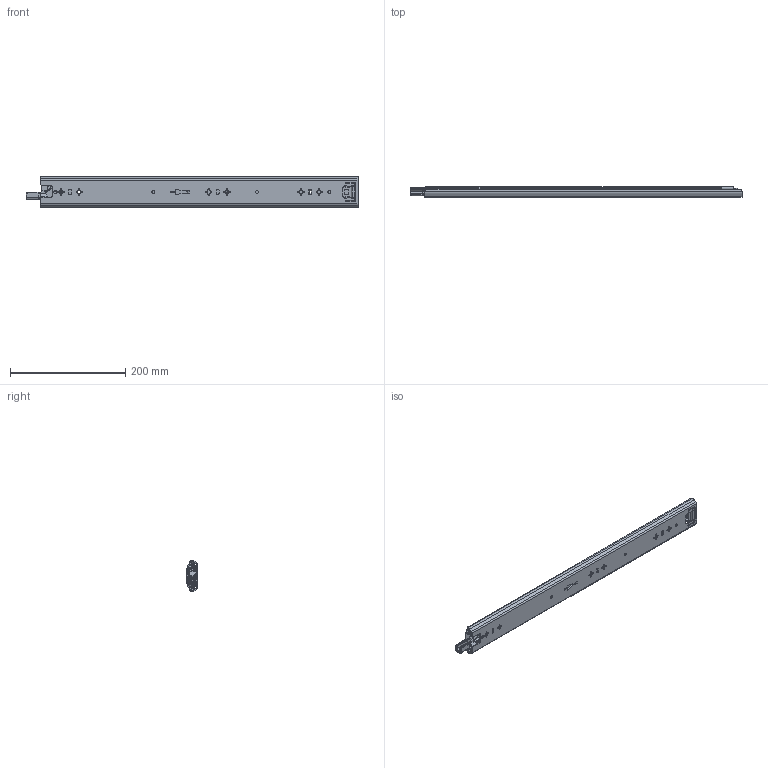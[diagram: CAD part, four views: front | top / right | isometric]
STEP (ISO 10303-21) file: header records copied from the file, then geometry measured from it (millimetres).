
FILE_DESCRIPTION((''),'2;1');
FILE_NAME('1053-3S-22ZUZHUANGTU_ASM','2023-04-11T',('jishu015'),(''),'PRO/ENGINEER BY PARAMETRIC TECHNOLOGY CORPORATION, 2010280','PRO/ENGINEER BY PARAMETRIC TECHNOLOGY CORPORATION, 2010280','');
FILE_SCHEMA(('CONFIG_CONTROL_DESIGN'));
Products named in the file (20): 1053-02-18WAIKE12; 1053WEIJIAO12; 1053-3S-24WAIKE12_ASM; 1053ZHUTIAO-17521; 53-5-6GANZHU21; 1053ZHUTIAO-175MM21_ASM; 1053-02-18ZHONGGUI21; ZHONGGUIPEIJIAN21; ZHONGGUISUOKOU21; 1053-02-18ZHONGGUI21_ASM; 1053XIAOZHUJIA-14GE21; 1053XIAOZHUJIA-14GE21_ASM; 1053-02-18NEIGUI21; DAOPIAN21; PIAN21; 1053-3SBANJI12321; JIAO-121; 50XINSUOKOU2; 1053-02-18NEIGUI21_ASM; 1053-3S-22ZUZHUANGTU_ASM
Assembly tree (64 placements, depth 3):
  1053-3S-22ZUZHUANGTU_ASM
    1053-3S-24WAIKE12_ASM
      1053-02-18WAIKE12
      1053WEIJIAO12
    1053ZHUTIAO-175MM21_ASM  x2
      1053ZHUTIAO-17521
      53-5-6GANZHU21
    1053-02-18ZHONGGUI21_ASM
      1053-02-18ZHONGGUI21
      ZHONGGUIPEIJIAN21
      ZHONGGUISUOKOU21
    1053XIAOZHUJIA-14GE21_ASM
      1053XIAOZHUJIA-14GE21
      53-5-6GANZHU21  x36
    1053-02-18NEIGUI21_ASM
      1053-02-18NEIGUI21
      DAOPIAN21
      PIAN21
      1053-3SBANJI12321
      JIAO-121
      50XINSUOKOU2
Bounding box: 575.42 x 18.7 x 53 mm (x, y, z)
Volume: 209263.7 mm3; surface area: 241455.6 mm2
Topology: 69 solids, 69 shells, 1925 faces, 5531 edges, 3472 vertices
Faces by surface type: cylinder 814, plane 799, sphere 116, bspline 95, cone 62, extrusion 23, torus 16
Entity records: 63845 total; most frequent: CARTESIAN_POINT 16594, ORIENTED_EDGE 10028, DIRECTION 9676, EDGE_CURVE 5014, AXIS2_PLACEMENT_3D 3342, VERTEX_POINT 3242, VECTOR 2992, LINE 2969
